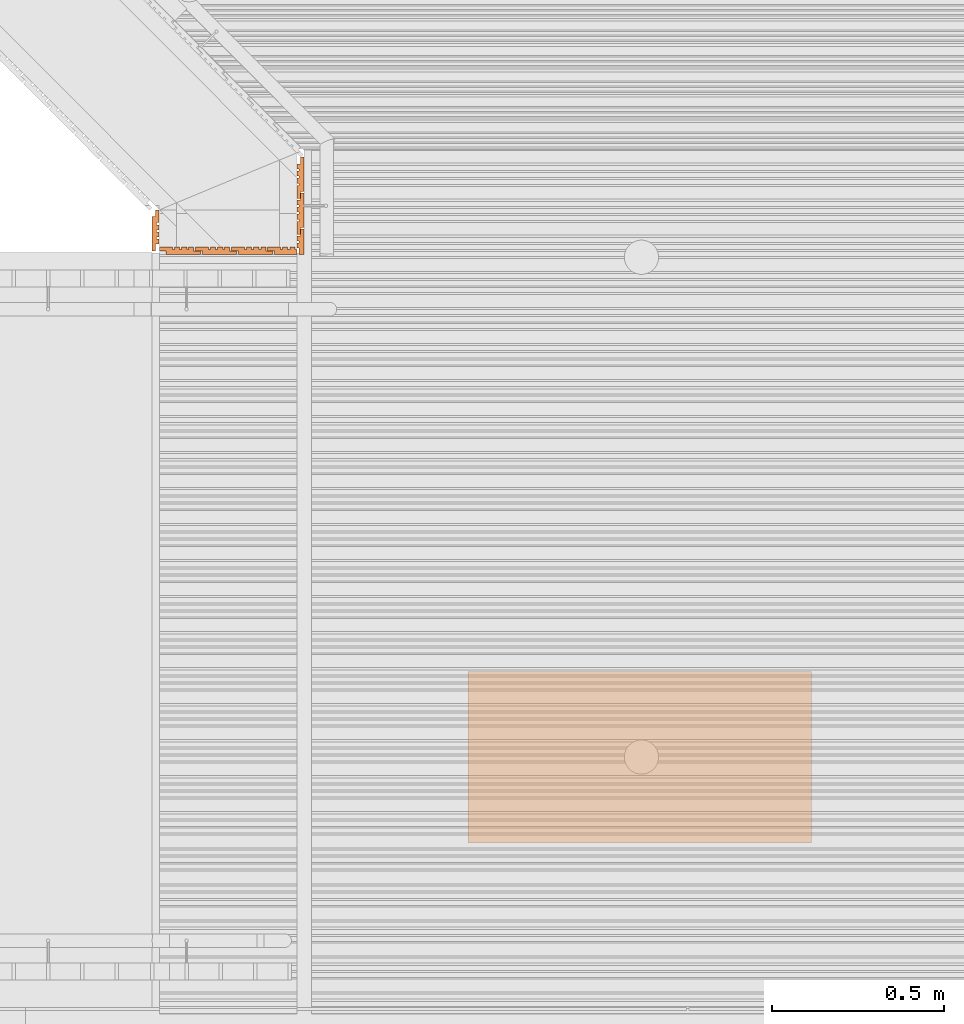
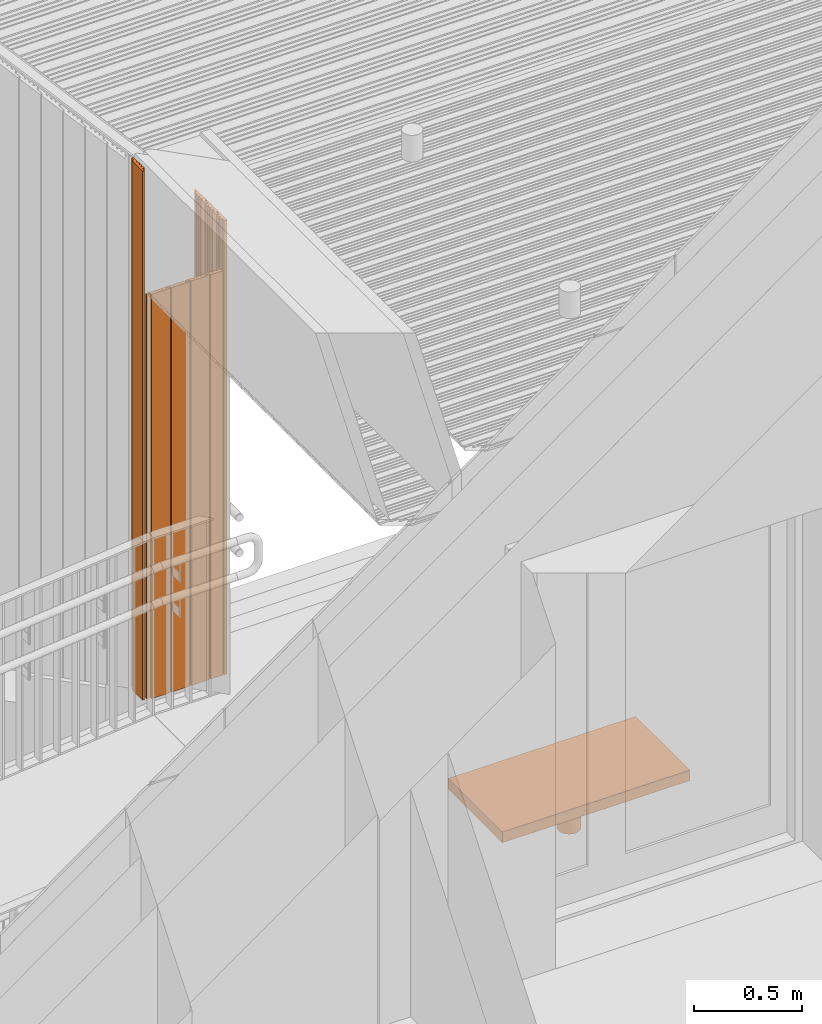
# One storey, part 355 of 418: 9 proxies.
"""IFC2X3 building model written with IfcOpenShell, lengths in millimetres."""

from ifc_helpers import new_model, entity, si_unit, converted_unit, derived_unit, money_unit, direction, frame, origin_with_axes, place, context, subcontext, project, spatial, polyline, outline, extrude, faceted_brep, source, transform, mapped, material, type_object, element, save


model = new_model("IFC2X3")

# Units and contexts
model_context = context("Model", 3, precision=0.01, world=origin_with_axes(), true_north=direction((0.0, 1.0)))
body_context = subcontext(model_context, "Body", "Model", "MODEL_VIEW")
ifc_project = project(units=[si_unit("LENGTHUNIT", "METRE", prefix="MILLI"), si_unit("AREAUNIT", "SQUARE_METRE"), si_unit("VOLUMEUNIT", "CUBIC_METRE"), converted_unit("PLANEANGLEUNIT", "DEGREE", entity("IfcPlaneAngleMeasure", 0.0174532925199), si_unit("PLANEANGLEUNIT", "RADIAN"), dimensions=[0, 0, 0, 0, 0, 0, 0]), si_unit("SOLIDANGLEUNIT", "STERADIAN"), money_unit("EUR"), converted_unit("TIMEUNIT", "Year", entity("IfcTimeMeasure", 31556926.0), si_unit("TIMEUNIT", "SECOND"), dimensions=[0, 0, 1, 0, 0, 0, 0]), si_unit("MASSUNIT", "GRAM", prefix="KILO"), si_unit("THERMODYNAMICTEMPERATUREUNIT", "DEGREE_CELSIUS"), si_unit("LUMINOUSINTENSITYUNIT", "LUMEN"), si_unit("ENERGYUNIT", "JOULE", prefix="MEGA"), derived_unit("THERMALCONDUCTANCEUNIT", [(si_unit("POWERUNIT", "WATT"), 1), (si_unit("LENGTHUNIT", "METRE"), -1), (si_unit("THERMODYNAMICTEMPERATUREUNIT", "KELVIN"), -1)]), derived_unit("SPECIFICHEATCAPACITYUNIT", [(si_unit("ENERGYUNIT", "JOULE"), 1), (si_unit("MASSUNIT", "GRAM", prefix="KILO"), -1), (si_unit("THERMODYNAMICTEMPERATUREUNIT", "KELVIN"), -1)]), derived_unit("MASSDENSITYUNIT", [(si_unit("MASSUNIT", "GRAM", prefix="KILO"), 1), (si_unit("VOLUMEUNIT", "CUBIC_METRE"), -1)])], contexts=[model_context])

# Site, building, storey
site_placement = place(None, origin_with_axes())
site = spatial("IfcSite", under=ifc_project, at=site_placement, Name="Paldiski mnt 245/1, Tallinn, Harjumaa", CompositionType="COMPLEX")
building_placement = place(site_placement, origin_with_axes())
building = spatial("IfcBuilding", under=site, at=building_placement, Name="RKAS Hoone üldnimetus (kasutust iseloomustav) -> IFC Project Manager -> SOLIBRI", CompositionType="ELEMENT")
storey_placement = place(building_placement, origin_with_axes())
storey = spatial("IfcBuildingStorey", under=building, at=storey_placement, Name="Esimene korrus", CompositionType="ELEMENT", Elevation=0.0)

# Proxies
ifc_material_1 = material(Name="ET-01_Puit - Konstruktsioon")
building_element_proxy_type_1 = type_object("IfcBuildingElementProxyType", Name="ET-01_Puit - Konstruktsioon 2280", PredefinedType="NOTDEFINED")
proxy_1_placement = place(storey_placement, frame((-53188.93008, 38595.147957, 2280.0), z_axis=(0.0, 0.0, 1.0), x_axis=(1.0, 0.0, 0.0)))
element("IfcBuildingElementProxy", 1, at=proxy_1_placement, inside=storey, type_object=building_element_proxy_type_1, material=ifc_material_1, Name="Varikatus", context=body_context, shape_type="SweptSolid", body=[
    extrude(outline(polyline([(0.0, 0.0), (20.0000005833, 3.20746096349e-07), (20.0000004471, -10.500001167), (120.000000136, -10.5000010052), (120.000000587, -0.500001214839), (100.000001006, -0.500000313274), (100.000000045, 10.4999994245), (85.423812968, 10.4999997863), (85.4238127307, 3.5000002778), (79.7831443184, 3.49999963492), (79.7831433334, 10.5000001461), (64.9546509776, 10.4999992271), (64.9546507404, 3.49999971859), (58.8277100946, 3.4999992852), (58.8277103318, 10.4999987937), (43.8885931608, 10.4999989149), (43.8885929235, 3.49999940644), (37.5260958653, 3.4999997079), (37.5260948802, 10.5000002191), (3.55875329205e-07, 10.4999992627), (0.0, 0.0)])), frame((0.0, 0.0, -2280.0), z_axis=(0.0, 0.0, 1.0), x_axis=(1.0, 0.0, 0.0)), (0.0, 0.0, 1.0), 2280.0),
])
proxy_2_placement = place(storey_placement, frame((-53293.93008, 38595.147957, 2280.0), z_axis=(0.0, 0.0, 1.0), x_axis=(1.0, 0.0, 0.0)))
element("IfcBuildingElementProxy", 2, at=proxy_2_placement, inside=storey, type_object=building_element_proxy_type_1, material=ifc_material_1, Name="Varikatus", context=body_context, shape_type="SweptSolid", body=[
    extrude(outline(polyline([(0.0, 0.0), (20.0000005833, 3.20753201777e-07), (20.0000004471, -10.500001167), (120.000000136, -10.5000010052), (120.000000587, -0.50000121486), (100.000001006, -0.500000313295), (100.000000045, 10.4999994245), (85.423812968, 10.4999997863), (85.4238127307, 3.50000027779), (79.7831443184, 3.4999996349), (79.7831433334, 10.5000001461), (64.9546509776, 10.4999992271), (64.9546507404, 3.49999971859), (58.8277100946, 3.4999992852), (58.8277103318, 10.4999987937), (43.8885931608, 10.4999989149), (43.8885929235, 3.49999940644), (37.5260958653, 3.49999970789), (37.5260948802, 10.5000002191), (3.55861118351e-07, 10.4999992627), (0.0, 0.0)])), frame((0.0, 0.0, -2280.0), z_axis=(0.0, 0.0, 1.0), x_axis=(1.0, 0.0, 0.0)), (0.0, 0.0, 1.0), 2280.0),
])
proxy_3_placement = place(storey_placement, frame((-53398.93008, 38595.147957, 2280.0), z_axis=(0.0, 0.0, 1.0), x_axis=(1.0, 0.0, 0.0)))
element("IfcBuildingElementProxy", 3, at=proxy_3_placement, inside=storey, type_object=building_element_proxy_type_1, material=ifc_material_1, Name="Varikatus", context=body_context, shape_type="SweptSolid", body=[
    extrude(outline(polyline([(0.0, 0.0), (20.0000005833, 3.20746096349e-07), (20.0000004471, -10.500001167), (120.000000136, -10.5000010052), (120.000000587, -0.500001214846), (100.000001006, -0.500000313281), (100.000000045, 10.4999994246), (85.423812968, 10.4999997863), (85.4238127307, 3.5000002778), (79.7831443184, 3.49999963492), (79.7831433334, 10.5000001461), (64.9546509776, 10.4999992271), (64.9546507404, 3.4999997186), (58.8277100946, 3.4999992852), (58.8277103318, 10.4999987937), (43.8885931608, 10.4999989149), (43.8885929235, 3.49999940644), (37.5260958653, 3.4999997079), (37.5260948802, 10.5000002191), (3.55854012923e-07, 10.4999992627), (0.0, 0.0)])), frame((0.0, 0.0, -2280.0), z_axis=(0.0, 0.0, 1.0), x_axis=(1.0, 0.0, 0.0)), (0.0, 0.0, 1.0), 2280.0),
])
proxy_4_placement = place(storey_placement, frame((-53083.9300799, 38605.6479558, 2280.0), z_axis=(0.0, 0.0, 1.0), x_axis=(1.0, 0.0, 0.0)))
element("IfcBuildingElementProxy", 4, at=proxy_4_placement, inside=storey, type_object=building_element_proxy_type_1, material=ifc_material_1, Name="Varikatus", context=body_context, shape_type="SweptSolid", body=[
    extrude(outline(polyline([(0.0, 0.0), (4.75921524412e-08, -10.4999989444), (20.0000010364, -10.4999988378), (20.0000004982, -21.0000003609), (85.4238126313, -21.0000000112), (85.4238125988, -6.99999889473), (79.7831442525, -6.99999907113), (79.7831438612, 1.02994590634e-06), (64.954651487, 4.56367388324e-07), (64.9546509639, -6.99999889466), (58.8277100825, -6.99999912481), (58.8277106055, 2.26215490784e-07), (43.8885924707, 6.59383658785e-09), (43.8885928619, -7.00000009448), (37.5260959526, -6.99999911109), (37.526094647, 1.74002678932e-06), (0.0, 0.0)])), frame((0.0, 0.0, -2280.0), z_axis=(0.0, 0.0, 1.0), x_axis=(1.0, 0.0, 0.0)), (0.0, 0.0, 1.0), 2280.0),
])
ifc_material_2 = material(Name="Raud")
building_element_proxy_type_2 = type_object("IfcBuildingElementProxyType", Name="Jalatsipuhastusrest", PredefinedType="NOTDEFINED")
shared_shape = source(origin_with_axes(), body_context, "Body", "Brep", [
    faceted_brep([(5.0, 995.0, 280.0), (5.0, 5.0, 280.0), (5.0, 5.0, 300.0), (5.0, 995.0, 300.0), (495.0, 995.0, 280.0), (495.0, 5.0, 280.0), (495.0, 5.0, 300.0), (495.0, 995.0, 300.0)], [[[0, 1, 2, 3]], [[0, 4, 5, 1]], [[1, 5, 6, 2]], [[3, 2, 6, 7]], [[4, 0, 3, 7]], [[5, 4, 7, 6]]]),
    faceted_brep([(0.0, 1000.0, 240.0), (0.0, 0.0, 240.0), (0.0, 0.0, 300.0), (0.0, 1000.0, 300.0), (500.0, 1000.0, 240.0), (500.0, 0.0, 240.0), (5.0, 995.0, 240.0), (5.0, 5.0, 240.0), (495.0, 5.0, 240.0), (495.0, 995.0, 240.0), (500.0, 0.0, 300.0), (500.0, 1000.0, 300.0), (5.0, 995.0, 300.0), (495.0, 995.0, 300.0), (495.0, 5.0, 300.0), (5.0, 5.0, 300.0)], [[[0, 1, 2, 3]], [[0, 4, 5, 1], [6, 7, 8, 9]], [[1, 5, 10, 2]], [[3, 2, 10, 11], [12, 13, 14, 15]], [[4, 0, 3, 11]], [[5, 4, 11, 10]], [[7, 6, 12, 15]], [[8, 7, 15, 14]], [[9, 8, 14, 13]], [[6, 9, 13, 12]]]),
    faceted_brep([(0.0, 1000.0, 240.0), (0.0, 0.0, 240.0), (0.0, 0.0, 245.0), (0.0, 1000.0, 245.0), (500.0, 1000.0, 240.0), (500.0, 0.0, 240.0), (195.0, 495.1881235, 240.0), (196.67114717, 485.71057695, 240.0), (199.96266455, 476.66720728, 240.0), (204.77454104, 468.33279271, 240.0), (210.96057022, 460.96057022, 240.0), (218.33279272, 454.77454104, 240.0), (226.66720729, 449.96266454, 240.0), (235.71057695, 446.67114717, 240.0), (245.18812351, 445.0, 240.0), (254.8118765, 445.0, 240.0), (264.28942305, 446.67114717, 240.0), (273.33279272, 449.96266454, 240.0), (281.66720729, 454.77454104, 240.0), (289.03942978, 460.96057022, 240.0), (295.22545896, 468.33279271, 240.0), (300.03733546, 476.66720728, 240.0), (303.32885283, 485.71057695, 240.0), (305.0, 495.1881235, 240.0), (305.0, 500.0, 240.0), (305.0, 504.81187649, 240.0), (303.32885283, 514.28942305, 240.0), (300.03733546, 523.33279271, 240.0), (295.22545896, 531.66720728, 240.0), (289.03942978, 539.03942978, 240.0), (281.66720729, 545.22545896, 240.0), (273.33279272, 550.03733545, 240.0), (264.28942305, 553.32885283, 240.0), (254.8118765, 555.0, 240.0), (245.18812351, 555.0, 240.0), (235.71057695, 553.32885283, 240.0), (226.66720729, 550.03733545, 240.0), (218.33279272, 545.22545896, 240.0), (210.96057022, 539.03942978, 240.0), (204.77454104, 531.66720728, 240.0), (199.96266455, 523.33279271, 240.0), (196.67114717, 514.28942305, 240.0), (195.0, 504.81187649, 240.0), (500.0, 0.0, 245.0), (500.0, 1000.0, 245.0), (195.0, 495.1881235, 245.0), (195.0, 504.81187649, 245.0), (196.67114717, 514.28942305, 245.0), (199.96266455, 523.33279271, 245.0), (204.77454104, 531.66720728, 245.0), (210.96057022, 539.03942978, 245.0), (218.33279272, 545.22545896, 245.0), (226.66720729, 550.03733545, 245.0), (235.71057695, 553.32885283, 245.0), (245.18812351, 555.0, 245.0), (254.8118765, 555.0, 245.0), (264.28942305, 553.32885283, 245.0), (273.33279272, 550.03733545, 245.0), (281.66720729, 545.22545896, 245.0), (289.03942978, 539.03942978, 245.0), (295.22545896, 531.66720728, 245.0), (300.03733546, 523.33279271, 245.0), (303.32885283, 514.28942305, 245.0), (305.0, 504.81187649, 245.0), (305.0, 500.0, 245.0), (305.0, 495.1881235, 245.0), (303.32885283, 485.71057695, 245.0), (300.03733546, 476.66720728, 245.0), (295.22545896, 468.33279271, 245.0), (289.03942978, 460.96057022, 245.0), (281.66720729, 454.77454104, 245.0), (273.33279272, 449.96266454, 245.0), (264.28942305, 446.67114717, 245.0), (254.8118765, 445.0, 245.0), (245.18812351, 445.0, 245.0), (235.71057695, 446.67114717, 245.0), (226.66720729, 449.96266454, 245.0), (218.33279272, 454.77454104, 245.0), (210.96057022, 460.96057022, 245.0), (204.77454104, 468.33279271, 245.0), (199.96266455, 476.66720728, 245.0), (196.67114717, 485.71057695, 245.0)], [[[0, 1, 2, 3]], [[0, 4, 5, 1], [6, 7, 8, 9, 10, 11, 12, 13, 14, 15, 16, 17, 18, 19, 20, 21, 22, 23, 24, 25, 26, 27, 28, 29, 30, 31, 32, 33, 34, 35, 36, 37, 38, 39, 40, 41, 42]], [[1, 5, 43, 2]], [[3, 2, 43, 44], [45, 46, 47, 48, 49, 50, 51, 52, 53, 54, 55, 56, 57, 58, 59, 60, 61, 62, 63, 64, 65, 66, 67, 68, 69, 70, 71, 72, 73, 74, 75, 76, 77, 78, 79, 80, 81]], [[4, 0, 3, 44]], [[5, 4, 44, 43]], [[7, 6, 45, 81]], [[8, 7, 81, 80]], [[9, 8, 80, 79]], [[10, 9, 79, 78]], [[11, 10, 78, 77]], [[12, 11, 77, 76]], [[13, 12, 76, 75]], [[14, 13, 75, 74]], [[15, 14, 74, 73]], [[16, 15, 73, 72]], [[17, 16, 72, 71]], [[18, 17, 71, 70]], [[19, 18, 70, 69]], [[20, 19, 69, 68]], [[21, 20, 68, 67]], [[22, 21, 67, 66]], [[23, 22, 66, 65]], [[24, 23, 65, 64]], [[25, 24, 64, 63]], [[26, 25, 63, 62]], [[27, 26, 62, 61]], [[28, 27, 61, 60]], [[29, 28, 60, 59]], [[30, 29, 59, 58]], [[31, 30, 58, 57]], [[32, 31, 57, 56]], [[33, 32, 56, 55]], [[34, 33, 55, 54]], [[35, 34, 54, 53]], [[36, 35, 53, 52]], [[37, 36, 52, 51]], [[38, 37, 51, 50]], [[39, 38, 50, 49]], [[40, 39, 49, 48]], [[41, 40, 48, 47]], [[42, 41, 47, 46]], [[6, 42, 46, 45]]]),
    faceted_brep([(305.0, 500.0, 0.0), (303.125920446, 485.764952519, 0.0), (297.631397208, 472.5, 0.0), (288.890872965, 461.109127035, 0.0), (277.5, 452.368602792, 0.0), (264.235047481, 446.874079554, 0.0), (250.0, 445.0, 0.0), (235.764952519, 446.874079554, 0.0), (222.5, 452.368602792, 0.0), (211.109127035, 461.109127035, 0.0), (202.368602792, 472.5, 0.0), (196.874079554, 485.764952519, 0.0), (195.0, 500.0, 0.0), (196.874079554, 514.235047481, 0.0), (202.368602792, 527.5, 0.0), (211.109127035, 538.890872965, 0.0), (222.5, 547.631397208, 0.0), (235.764952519, 553.125920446, 0.0), (250.0, 555.0, 0.0), (264.235047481, 553.125920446, 0.0), (277.5, 547.631397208, 0.0), (288.890872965, 538.890872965, 0.0), (297.631397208, 527.5, 0.0), (303.125920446, 514.235047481, 0.0), (293.301270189, 475.0, 0.0), (298.296291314, 487.059047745, 0.0), (300.0, 500.0, 0.0), (298.296291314, 512.940952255, 0.0), (293.301270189, 525.0, 0.0), (285.355339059, 535.355339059, 0.0), (275.0, 543.301270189, 0.0), (262.940952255, 548.296291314, 0.0), (250.0, 550.0, 0.0), (237.059047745, 548.296291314, 0.0), (225.0, 543.301270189, 0.0), (214.644660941, 535.355339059, 0.0), (206.698729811, 525.0, 0.0), (201.703708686, 512.940952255, 0.0), (200.0, 500.0, 0.0), (201.703708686, 487.059047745, 0.0), (206.698729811, 475.0, 0.0), (214.644660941, 464.644660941, 0.0), (225.0, 456.698729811, 0.0), (237.059047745, 451.703708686, 0.0), (250.0, 450.0, 0.0), (262.940952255, 451.703708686, 0.0), (275.0, 456.698729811, 0.0), (285.355339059, 464.644660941, 0.0), (303.125920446, 485.764952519, 240.0), (305.0, 500.0, 240.0), (297.631397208, 472.5, 240.0), (288.890872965, 461.109127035, 240.0), (277.5, 452.368602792, 240.0), (264.235047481, 446.874079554, 240.0), (250.0, 445.0, 240.0), (235.764952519, 446.874079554, 240.0), (222.5, 452.368602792, 240.0), (211.109127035, 461.109127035, 240.0), (202.368602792, 472.5, 240.0), (196.874079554, 485.764952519, 240.0), (195.0, 500.0, 240.0), (196.874079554, 514.235047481, 240.0), (202.368602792, 527.5, 240.0), (211.109127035, 538.890872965, 240.0), (222.5, 547.631397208, 240.0), (235.764952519, 553.125920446, 240.0), (250.0, 555.0, 240.0), (264.235047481, 553.125920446, 240.0), (277.5, 547.631397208, 240.0), (288.890872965, 538.890872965, 240.0), (297.631397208, 527.5, 240.0), (303.125920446, 514.235047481, 240.0), (293.301270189, 475.0, 240.0), (298.296291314, 487.059047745, 240.0), (300.0, 500.0, 240.0), (298.296291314, 512.940952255, 240.0), (293.301270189, 525.0, 240.0), (285.355339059, 535.355339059, 240.0), (275.0, 543.301270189, 240.0), (262.940952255, 548.296291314, 240.0), (250.0, 550.0, 240.0), (237.059047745, 548.296291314, 240.0), (225.0, 543.301270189, 240.0), (214.644660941, 535.355339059, 240.0), (206.698729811, 525.0, 240.0), (201.703708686, 512.940952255, 240.0), (200.0, 500.0, 240.0), (201.703708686, 487.059047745, 240.0), (206.698729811, 475.0, 240.0), (214.644660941, 464.644660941, 240.0), (225.0, 456.698729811, 240.0), (237.059047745, 451.703708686, 240.0), (250.0, 450.0, 240.0), (262.940952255, 451.703708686, 240.0), (275.0, 456.698729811, 240.0), (285.355339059, 464.644660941, 240.0)], [[[0, 1, 2, 3, 4, 5, 6, 7, 8, 9, 10, 11, 12, 13, 14, 15, 16, 17, 18, 19, 20, 21, 22, 23], [24, 25, 26, 27, 28, 29, 30, 31, 32, 33, 34, 35, 36, 37, 38, 39, 40, 41, 42, 43, 44, 45, 46, 47]], [[48, 1, 0, 49]], [[50, 2, 1, 48]], [[51, 3, 2, 50]], [[52, 4, 3, 51]], [[53, 5, 4, 52]], [[54, 6, 5, 53]], [[55, 7, 6, 54]], [[56, 8, 7, 55]], [[57, 9, 8, 56]], [[58, 10, 9, 57]], [[59, 11, 10, 58]], [[60, 12, 11, 59]], [[61, 13, 12, 60]], [[62, 14, 13, 61]], [[63, 15, 14, 62]], [[64, 16, 15, 63]], [[65, 17, 16, 64]], [[66, 18, 17, 65]], [[67, 19, 18, 66]], [[68, 20, 19, 67]], [[69, 21, 20, 68]], [[70, 22, 21, 69]], [[71, 23, 22, 70]], [[49, 0, 23, 71]], [[72, 73, 25, 24]], [[73, 74, 26, 25]], [[74, 75, 27, 26]], [[75, 76, 28, 27]], [[76, 77, 29, 28]], [[77, 78, 30, 29]], [[78, 79, 31, 30]], [[79, 80, 32, 31]], [[80, 81, 33, 32]], [[81, 82, 34, 33]], [[82, 83, 35, 34]], [[83, 84, 36, 35]], [[84, 85, 37, 36]], [[85, 86, 38, 37]], [[86, 87, 39, 38]], [[87, 88, 40, 39]], [[88, 89, 41, 40]], [[89, 90, 42, 41]], [[90, 91, 43, 42]], [[91, 92, 44, 43]], [[92, 93, 45, 44]], [[93, 94, 46, 45]], [[94, 95, 47, 46]], [[95, 72, 24, 47]], [[50, 48, 49, 71, 70, 69, 68, 67, 66, 65, 64, 63, 62, 61, 60, 59, 58, 57, 56, 55, 54, 53, 52, 51], [76, 75, 74, 73, 72, 95, 94, 93, 92, 91, 90, 89, 88, 87, 86, 85, 84, 83, 82, 81, 80, 79, 78, 77]]]),
])
proxy_5_placement = place(storey_placement, frame((-52499.1209096, 37369.8287244, -320.0), z_axis=(0.0, 0.0, 1.0), x_axis=(0.0, -1.0, 0.0)))
element("IfcBuildingElementProxy", 5, at=proxy_5_placement, inside=storey, type_object=building_element_proxy_type_2, material=ifc_material_2, Name="Jalatsipuhastusrest", context=body_context, shape_type="MappedRepresentation", body=[
    mapped(shared_shape, transform((0.0, 0.0, 0.0))),
])
building_element_proxy_type_3 = type_object("IfcBuildingElementProxyType", Name="ET-01_Puit - Konstruktsioon 2560", PredefinedType="NOTDEFINED")
proxy_6_placement = place(storey_placement, frame((-52977.4433155, 38584.6479558, 2560.10177239), z_axis=(0.0, 0.0, 1.0), x_axis=(1.0, 0.0, 0.0)))
element("IfcBuildingElementProxy", 6, at=proxy_6_placement, inside=storey, type_object=building_element_proxy_type_3, material=ifc_material_1, Name="Varikatus", context=body_context, shape_type="SweptSolid", body=[
    extrude(outline(polyline([(0.0, 0.0), (-1.18667742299e-07, 73.3538636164), (-9.999999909, 73.3538640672), (-10.0000008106, 53.3538644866), (-21.0000005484, 53.3538635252), (-21.0000009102, 38.7776764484), (-14.0000014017, 38.7776762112), (-14.0000007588, 33.1370077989), (-21.0000012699, 33.1370068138), (-21.000000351, 18.3085144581), (-14.0000008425, 18.3085142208), (-13.9999995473, 0.0), (0.0, 0.0)])), frame((0.0, 0.0, -2560.10177239), z_axis=(0.0, 0.0, 1.0), x_axis=(1.0, 0.0, 0.0)), (0.0, 0.0, 1.0), 2560.10177239),
])
proxy_7_placement = place(storey_placement, frame((-52987.9433166, 38643.001819, 2560.10177239), z_axis=(0.0, 0.0, 1.0), x_axis=(1.0, 0.0, 0.0)))
element("IfcBuildingElementProxy", 7, at=proxy_7_placement, inside=storey, type_object=building_element_proxy_type_3, material=ifc_material_1, Name="Varikatus", context=body_context, shape_type="SweptSolid", body=[
    extrude(outline(polyline([(0.0, 0.0), (-3.20753201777e-07, 20.0000005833), (10.500001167, 20.0000004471), (10.5000010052, 120.000000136), (0.500001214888, 120.000000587), (0.500000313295, 100.000001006), (-10.4999994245, 100.000000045), (-10.4999997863, 85.423812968), (-3.50000027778, 85.4238127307), (-3.4999996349, 79.7831443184), (-10.500000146, 79.7831433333), (-10.4999992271, 64.9546509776), (-3.49999971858, 64.9546507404), (-3.49999928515, 58.8277100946), (-10.4999987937, 58.8277103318), (-10.4999989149, 43.8885931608), (-3.49999940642, 43.8885929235), (-3.49999970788, 37.5260958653), (-10.5000002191, 37.5260948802), (-10.4999992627, 3.55868223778e-07), (0.0, 0.0)])), frame((0.0, 0.0, -2560.10177239), z_axis=(0.0, 0.0, 1.0), x_axis=(1.0, 0.0, 0.0)), (0.0, 0.0, 1.0), 2560.10177239),
])
proxy_8_placement = place(storey_placement, frame((-52987.9433166, 38748.0018187, 2560.10177239), z_axis=(0.0, 0.0, 1.0), x_axis=(1.0, 0.0, 0.0)))
element("IfcBuildingElementProxy", 8, at=proxy_8_placement, inside=storey, type_object=building_element_proxy_type_3, material=ifc_material_1, Name="Varikatus", context=body_context, shape_type="SweptSolid", body=[
    extrude(outline(polyline([(0.0, 0.0), (-3.20753201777e-07, 20.0000005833), (10.500001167, 20.0000004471), (10.5000010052, 120.000000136), (0.500001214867, 120.000000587), (0.500000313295, 100.000001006), (-10.4999994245, 100.000000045), (-10.4999997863, 85.423812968), (-3.50000027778, 85.4238127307), (-3.4999996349, 79.7831443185), (-10.5000001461, 79.7831433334), (-10.4999992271, 64.9546509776), (-3.49999971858, 64.9546507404), (-3.49999928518, 58.8277100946), (-10.4999987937, 58.8277103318), (-10.4999989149, 43.8885931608), (-3.49999940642, 43.8885929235), (-3.49999970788, 37.5260958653), (-10.5000002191, 37.5260948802), (-10.4999992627, 3.55875329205e-07), (0.0, 0.0)])), frame((0.0, 0.0, -2560.10177239), z_axis=(0.0, 0.0, 1.0), x_axis=(1.0, 0.0, 0.0)), (0.0, 0.0, 1.0), 2560.10177239),
])
building_element_proxy_type_4 = type_object("IfcBuildingElementProxyType", Name="ET-01_Puit - Konstruktsioon 2982", PredefinedType="NOTDEFINED")
proxy_9_placement = place(storey_placement, frame((-53410.2693102, 38714.3722797, 2982.00000037), z_axis=(0.0, 0.0, 1.0), x_axis=(1.0, 0.0, 0.0)))
element("IfcBuildingElementProxy", 9, at=proxy_9_placement, inside=storey, type_object=building_element_proxy_type_4, material=ifc_material_1, Name="Varikatus", context=body_context, shape_type="SweptSolid", body=[
    extrude(outline(polyline([(0.0, 0.0), (3.20753201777e-07, -20.0000005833), (-10.500001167, -20.0000004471), (-10.5000010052, -120.000000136), (-0.500001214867, -120.000000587), (-0.500000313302, -100.000001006), (10.4999994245, -100.000000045), (10.4999997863, -85.423812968), (3.50000027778, -85.4238127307), (3.4999996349, -79.7831443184), (10.5000001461, -79.7831433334), (10.4999992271, -64.9546509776), (3.49999971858, -64.9546507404), (3.49999928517, -58.8277100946), (10.4999987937, -58.8277103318), (10.4999989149, -43.8885931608), (3.49999940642, -43.8885929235), (3.49999970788, -37.5260958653), (10.500000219, -37.5260948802), (10.4999992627, -3.55896645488e-07), (0.0, 0.0)])), frame((0.0, 0.0, -2982.00000037), z_axis=(0.0, 0.0, 1.0), x_axis=(1.0, 0.0, 0.0)), (0.0, 0.0, 1.0), 2982.00000037),
])

save(model, "model.ifc")
